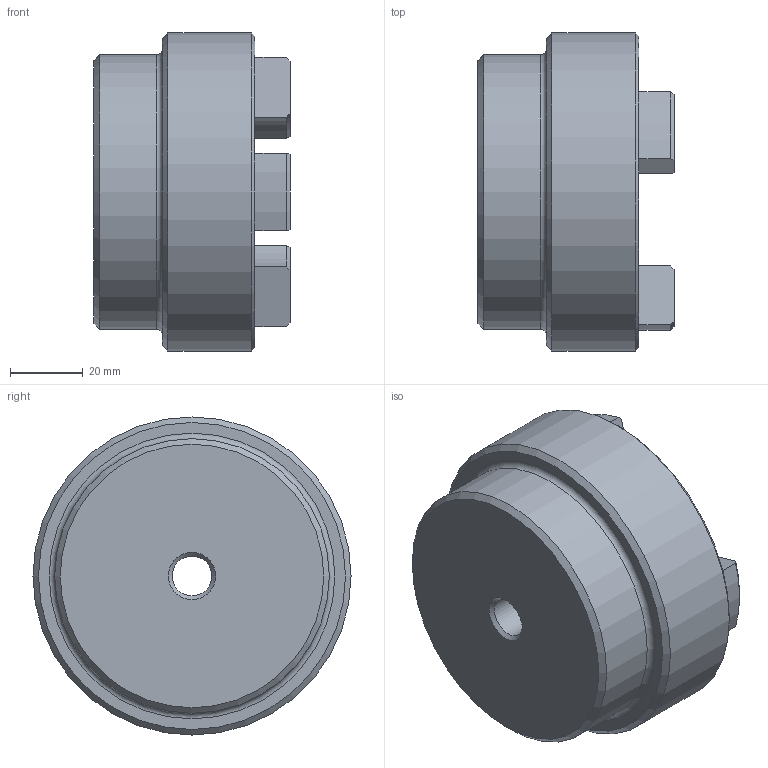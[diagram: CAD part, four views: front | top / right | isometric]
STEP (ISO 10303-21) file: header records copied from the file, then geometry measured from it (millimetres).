
FILE_DESCRIPTION (( 'STEP AP203' ), '1' );
FILE_NAME ('RC3.step', '2024-07-24T12:54:27', ( 'Adlan' ), ( '' ), 'SwSTEP 2.0', 'SolidWorks 2013', '' );
FILE_SCHEMA (( 'CONFIG_CONTROL_DESIGN' ));
Length unit declared in the file: inch
Products named in the file (1): RC3
Bounding box: 53.85 x 87.38 x 87.38 mm (x, y, z)
Volume: 193734.6 mm3; surface area: 29030.1 mm2
Topology: 1 solids, 1 shells, 60 faces, 146 edges, 90 vertices
Faces by surface type: cylinder 24, plane 13, torus 13, cone 10
Full cylindrical faces by diameter (mm): 10.922 x1, 75.438 x1, 87.376 x1
Entity records: 1841 total; most frequent: CARTESIAN_POINT 341, DIRECTION 324, ORIENTED_EDGE 274, EDGE_CURVE 137, AXIS2_PLACEMENT_3D 132, VERTEX_POINT 89, EDGE_LOOP 72, CIRCLE 71
